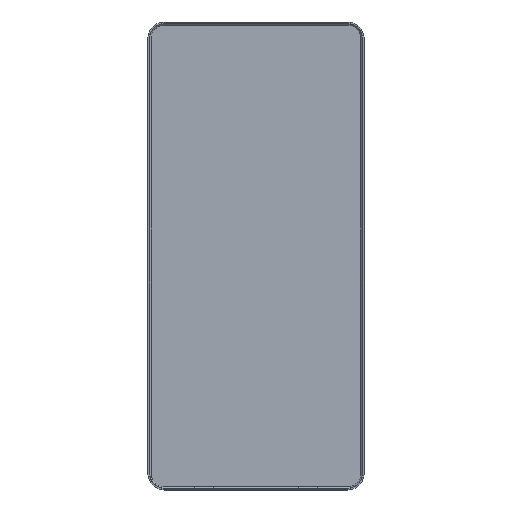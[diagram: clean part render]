
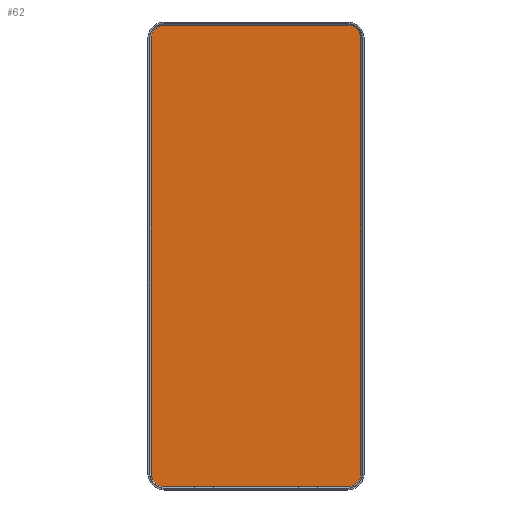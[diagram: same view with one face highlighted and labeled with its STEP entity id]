
A CAD part, top view. The second image highlights one B-rep face of the part: STEP entity #62.
In plain terms, the highlighted planar face has unit normal (0, 0, 1).
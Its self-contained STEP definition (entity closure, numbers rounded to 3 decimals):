
#62=ADVANCED_FACE('',(#131),#954,.T.);
#131=FACE_OUTER_BOUND('',#196,.T.);
#196=EDGE_LOOP('',(#391,#392,#393,#394,#395,#396,#397,#398));
#391=ORIENTED_EDGE('',*,*,#661,.T.);
#392=ORIENTED_EDGE('',*,*,#664,.T.);
#393=ORIENTED_EDGE('',*,*,#666,.T.);
#394=ORIENTED_EDGE('',*,*,#648,.T.);
#395=ORIENTED_EDGE('',*,*,#651,.T.);
#396=ORIENTED_EDGE('',*,*,#654,.T.);
#397=ORIENTED_EDGE('',*,*,#656,.T.);
#398=ORIENTED_EDGE('',*,*,#659,.T.);
#648=EDGE_CURVE('',#887,#885,#810,.T.);
#651=EDGE_CURVE('',#885,#884,#756,.T.);
#654=EDGE_CURVE('',#884,#883,#811,.T.);
#656=EDGE_CURVE('',#883,#882,#760,.T.);
#659=EDGE_CURVE('',#882,#880,#812,.T.);
#661=EDGE_CURVE('',#880,#881,#764,.T.);
#664=EDGE_CURVE('',#881,#886,#813,.T.);
#666=EDGE_CURVE('',#886,#887,#768,.T.);
#756=B_SPLINE_CURVE_WITH_KNOTS('',1,(#1802,#1803),.UNSPECIFIED.,.F.,.F.,
(2,2),(0.,209.),.UNSPECIFIED.);
#760=B_SPLINE_CURVE_WITH_KNOTS('',1,(#1813,#1814),.UNSPECIFIED.,.F.,.F.,
(2,2),(0.,88.),.UNSPECIFIED.);
#764=B_SPLINE_CURVE_WITH_KNOTS('',1,(#1824,#1825),.UNSPECIFIED.,.F.,.F.,
(2,2),(0.,209.),.UNSPECIFIED.);
#768=B_SPLINE_CURVE_WITH_KNOTS('',1,(#1835,#1836),.UNSPECIFIED.,.F.,.F.,
(2,2),(0.,88.),.UNSPECIFIED.);
#810=(
BOUNDED_CURVE()
B_SPLINE_CURVE(2,(#1795,#1796,#1797),.UNSPECIFIED.,.F.,.F.)
B_SPLINE_CURVE_WITH_KNOTS((3,3),(0.,10.179),.UNSPECIFIED.)
CURVE()
GEOMETRIC_REPRESENTATION_ITEM()
RATIONAL_B_SPLINE_CURVE((1.,0.707,1.))
REPRESENTATION_ITEM('')
);
#811=(
BOUNDED_CURVE()
B_SPLINE_CURVE(2,(#1808,#1809,#1810),.UNSPECIFIED.,.F.,.F.)
B_SPLINE_CURVE_WITH_KNOTS((3,3),(0.,10.179),
 .UNSPECIFIED.)
CURVE()
GEOMETRIC_REPRESENTATION_ITEM()
RATIONAL_B_SPLINE_CURVE((1.,0.707,1.))
REPRESENTATION_ITEM('')
);
#812=(
BOUNDED_CURVE()
B_SPLINE_CURVE(2,(#1819,#1820,#1821),.UNSPECIFIED.,.F.,.F.)
B_SPLINE_CURVE_WITH_KNOTS((3,3),(0.,10.179),.UNSPECIFIED.)
CURVE()
GEOMETRIC_REPRESENTATION_ITEM()
RATIONAL_B_SPLINE_CURVE((1.,0.707,1.))
REPRESENTATION_ITEM('')
);
#813=(
BOUNDED_CURVE()
B_SPLINE_CURVE(2,(#1830,#1831,#1832),.UNSPECIFIED.,.F.,.F.)
B_SPLINE_CURVE_WITH_KNOTS((3,3),(0.,10.179),
 .UNSPECIFIED.)
CURVE()
GEOMETRIC_REPRESENTATION_ITEM()
RATIONAL_B_SPLINE_CURVE((1.,0.707,1.))
REPRESENTATION_ITEM('')
);
#880=VERTEX_POINT('',#1352);
#881=VERTEX_POINT('',#1353);
#882=VERTEX_POINT('',#1354);
#883=VERTEX_POINT('',#1355);
#884=VERTEX_POINT('',#1356);
#885=VERTEX_POINT('',#1357);
#886=VERTEX_POINT('',#1358);
#887=VERTEX_POINT('',#1359);
#954=PLANE('',#1022);
#1022=AXIS2_PLACEMENT_3D('',#1220,#1077,$);
#1077=DIRECTION('',(0.,0.,1.));
#1220=CARTESIAN_POINT('',(63.975,-139.6,31.2));
#1352=CARTESIAN_POINT('',(-50.48,104.5,31.2));
#1353=CARTESIAN_POINT('',(-50.48,-104.5,31.2));
#1354=CARTESIAN_POINT('',(-44.,110.98,31.2));
#1355=CARTESIAN_POINT('',(44.,110.98,31.2));
#1356=CARTESIAN_POINT('',(50.48,104.5,31.2));
#1357=CARTESIAN_POINT('',(50.48,-104.5,31.2));
#1358=CARTESIAN_POINT('',(-44.,-110.98,31.2));
#1359=CARTESIAN_POINT('',(44.,-110.98,31.2));
#1795=CARTESIAN_POINT('',(44.,-110.98,31.2));
#1796=CARTESIAN_POINT('',(50.48,-110.98,31.2));
#1797=CARTESIAN_POINT('',(50.48,-104.5,31.2));
#1802=CARTESIAN_POINT('',(50.48,-104.5,31.2));
#1803=CARTESIAN_POINT('',(50.48,104.5,31.2));
#1808=CARTESIAN_POINT('',(50.48,104.5,31.2));
#1809=CARTESIAN_POINT('',(50.48,110.98,31.2));
#1810=CARTESIAN_POINT('',(44.,110.98,31.2));
#1813=CARTESIAN_POINT('',(44.,110.98,31.2));
#1814=CARTESIAN_POINT('',(-44.,110.98,31.2));
#1819=CARTESIAN_POINT('',(-44.,110.98,31.2));
#1820=CARTESIAN_POINT('',(-50.48,110.98,31.2));
#1821=CARTESIAN_POINT('',(-50.48,104.5,31.2));
#1824=CARTESIAN_POINT('',(-50.48,104.5,31.2));
#1825=CARTESIAN_POINT('',(-50.48,-104.5,31.2));
#1830=CARTESIAN_POINT('',(-50.48,-104.5,31.2));
#1831=CARTESIAN_POINT('',(-50.48,-110.98,31.2));
#1832=CARTESIAN_POINT('',(-44.,-110.98,31.2));
#1835=CARTESIAN_POINT('',(-44.,-110.98,31.2));
#1836=CARTESIAN_POINT('',(44.,-110.98,31.2));
